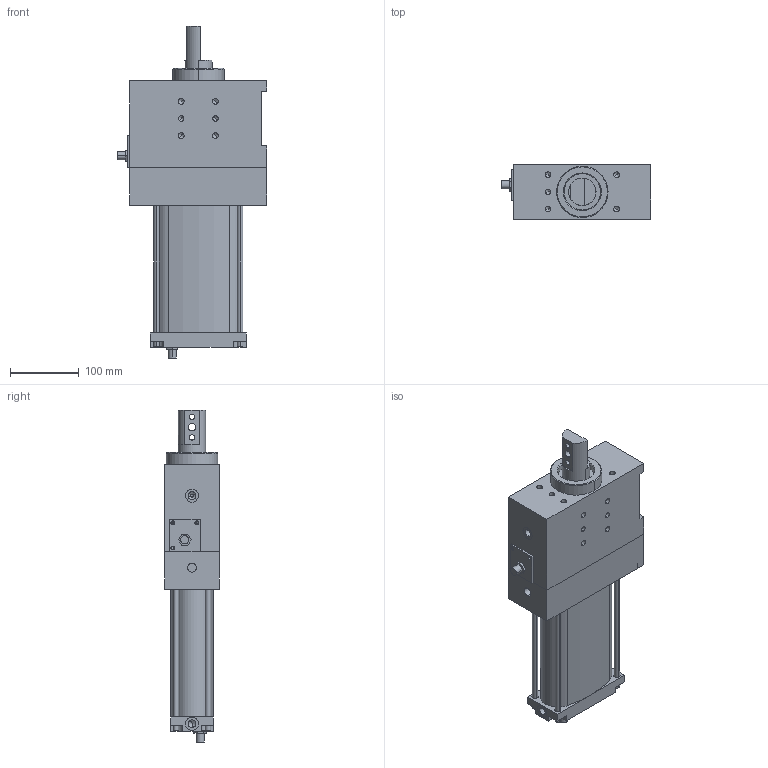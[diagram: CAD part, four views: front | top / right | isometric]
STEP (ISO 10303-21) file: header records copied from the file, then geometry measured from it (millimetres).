
FILE_DESCRIPTION(('CATIA V5 STEP Exchange'),'2;1');
FILE_NAME('G:\Konstruktion\Modelle\Step\MZ_80_A12_T02_50_TUENKERS.stp','2010-11-03T07:23:09+00:00',('none'),('none'),'CATIA Version 5 Release 19 SP 3 (IN-10)','CATIA V5 STEP AP214','none');
FILE_SCHEMA(('AUTOMOTIVE_DESIGN { 1 0 10303 214 1 1 1 1 }'));
Length unit declared in the file: millimetre
Products named in the file (1): MZ_80_A12_T02_50_TUENKERS
Bounding box: 218.5 x 80 x 484.5 mm (x, y, z)
Volume: 2892887 mm3; surface area: 433833 mm2
Topology: 17 solids, 17 shells, 465 faces, 1201 edges, 753 vertices
Faces by surface type: cylinder 211, plane 148, cone 106
Entity records: 13170 total; most frequent: CARTESIAN_POINT 2378, ORIENTED_EDGE 2254, DIRECTION 1733, EDGE_CURVE 1127, AXIS2_PLACEMENT_3D 838, VERTEX_POINT 753, VECTOR 586, LINE 586
